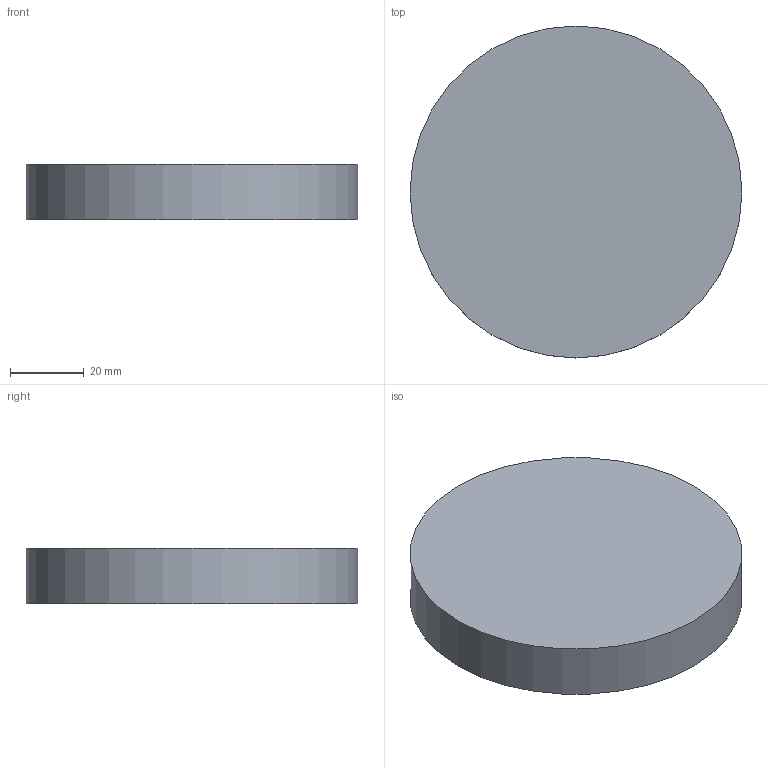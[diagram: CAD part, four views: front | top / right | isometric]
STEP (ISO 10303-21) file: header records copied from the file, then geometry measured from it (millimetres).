
FILE_DESCRIPTION(('Open CASCADE Model'),'2;1');
FILE_NAME('Open CASCADE Shape Model','2026-10-10T15:34:57',('Author'),( 'Open CASCADE'),'Open CASCADE STEP processor 7.9','Open CASCADE 7.9' ,'Unknown');
FILE_SCHEMA(('AUTOMOTIVE_DESIGN { 1 0 10303 214 1 1 1 1 }'));
Length unit declared in the file: millimetre
Products named in the file (1): Open CASCADE STEP translator 7.9 16
Bounding box: 90 x 90 x 15 mm (x, y, z)
Volume: 95425.9 mm3; surface area: 16964.6 mm2
Topology: 1 solids, 1 shells, 3 faces, 3 edges, 2 vertices
Faces by surface type: plane 2, cylinder 1
Full cylindrical faces by diameter (mm): 90 x1
Entity records: 108 total; most frequent: DIRECTION 19, CARTESIAN_POINT 15, AXIS2_PLACEMENT_3D 6, ORIENTED_EDGE 6, PCURVE 6, DEFINITIONAL_REPRESENTATION 6, LINE 5, VECTOR 5
